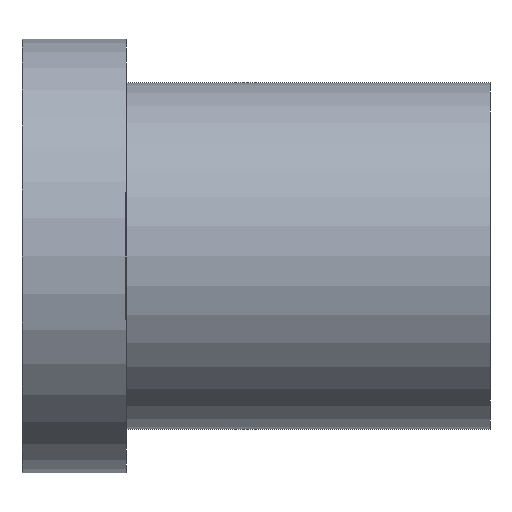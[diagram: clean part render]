
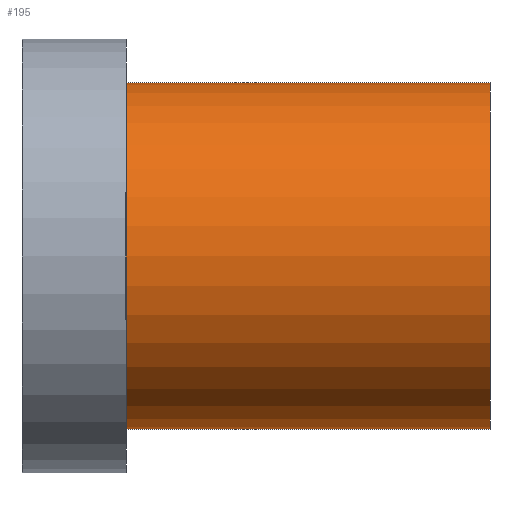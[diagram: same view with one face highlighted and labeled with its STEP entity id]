
A CAD part, left-side view. The second image highlights one B-rep face of the part: STEP entity #195.
In plain terms, the highlighted cylindrical face has radius 10 mm (diameter 20 mm), a full revolution.
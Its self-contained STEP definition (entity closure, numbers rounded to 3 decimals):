
#32=ORIENTED_EDGE('',*,*,#50,.T.);
#33=ORIENTED_EDGE('',*,*,#49,.F.);
#49=EDGE_CURVE('',#59,#59,#69,.T.);
#50=EDGE_CURVE('',#60,#60,#70,.T.);
#59=VERTEX_POINT('',#280);
#60=VERTEX_POINT('',#283);
#69=CIRCLE('',#213,10.);
#70=CIRCLE('',#215,10.);
#82=EDGE_LOOP('',(#32));
#83=EDGE_LOOP('',(#33));
#102=FACE_BOUND('',#82,.T.);
#103=FACE_BOUND('',#83,.T.);
#117=CYLINDRICAL_SURFACE('',#214,10.);
#195=ADVANCED_FACE('',(#102,#103),#117,.T.);
#213=AXIS2_PLACEMENT_3D('',#279,#241,#242);
#214=AXIS2_PLACEMENT_3D('',#281,#243,#244);
#215=AXIS2_PLACEMENT_3D('',#282,#245,#246);
#241=DIRECTION('',(0.,-1.,0.));
#242=DIRECTION('',(0.,0.,-1.));
#243=DIRECTION('',(0.,-1.,0.));
#244=DIRECTION('',(0.,0.,-1.));
#245=DIRECTION('',(0.,-1.,0.));
#246=DIRECTION('',(0.,0.,-1.));
#279=CARTESIAN_POINT('',(0.,0.,0.));
#280=CARTESIAN_POINT('',(0.,0.,-10.));
#281=CARTESIAN_POINT('',(0.,0.,0.));
#282=CARTESIAN_POINT('',(0.,21.,0.));
#283=CARTESIAN_POINT('',(0.,21.,-10.));
